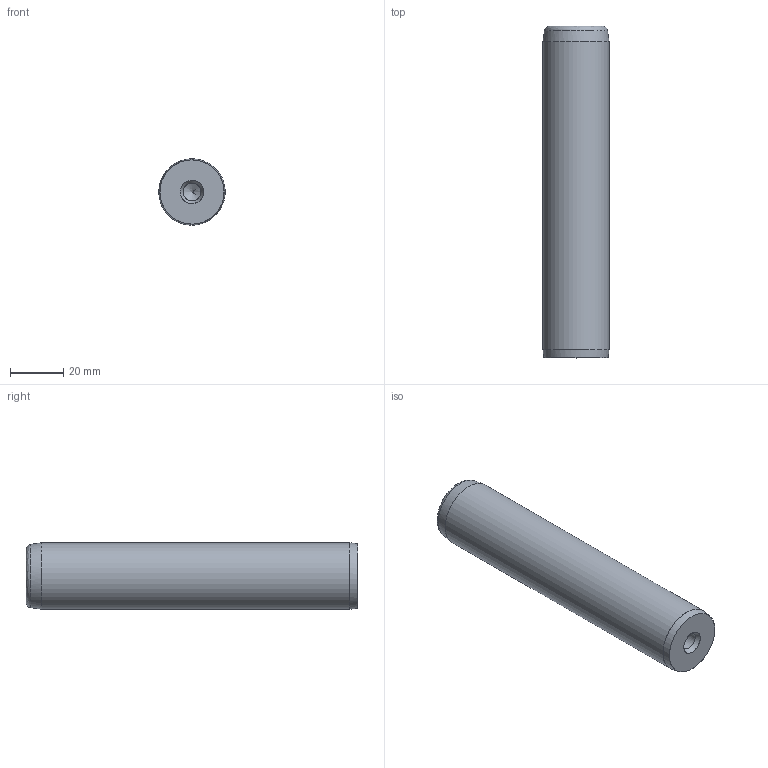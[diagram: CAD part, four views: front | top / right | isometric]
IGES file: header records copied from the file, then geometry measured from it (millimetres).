
Start section: Missler Software BP 521, 31674 Labege Cedex, France Tel   : +33 (0)5 61 00 03 00 Fax   : +33 (0)5 61 00 03 03 Email : sup.topsolid@topsolid.com
Global section: file name: D:\Cuma\D14\D14_25125.igs; native system: TopSolid v605250 Missler Software; preprocessor: IGES preprocessor v100000; date: 030120.192623; units: millimetre
Bounding box: 24.92 x 125 x 25 mm (x, y, z)
Surface area: 11763.6 mm2 (no closed solid volume)
Topology: 0 solids, 0 shells, 14 faces, 145 edges, 136 vertices
Faces by surface type: bspline 14
